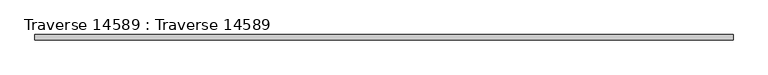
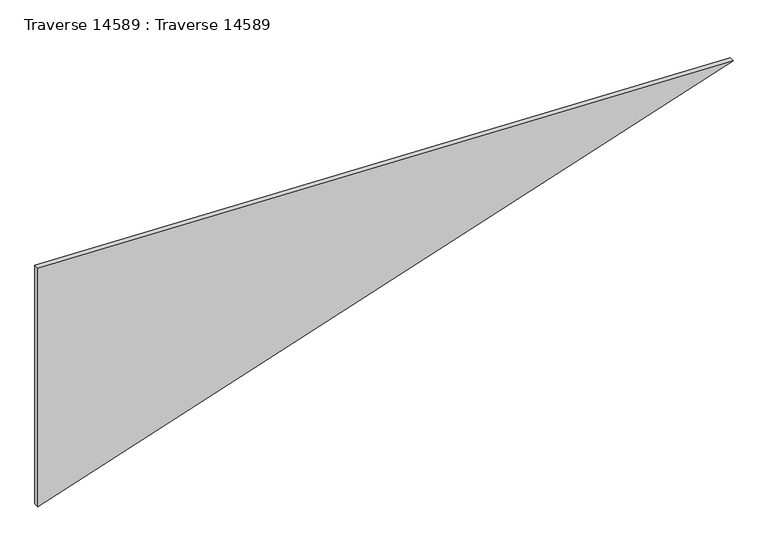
"""IFC4 building model written with IfcOpenShell, lengths in millimetres: beam geometry, Traverse 14589 : Traverse 14589."""

from ifc_helpers import new_model, si_unit, frame, origin, place, context, project, spatial, polyline, outline, extrude, source, transform, mapped, element, save


def traverse_14589_traverse_14589_74e63947(model_context):
    return source(origin(), model_context, "Body", "SweptSolid", [
        extrude(outline(polyline([(6935.9490258, 389.9999701), (7418.2504604, 1860.3647903), (7469.7132291, 389.9999701), (6935.9490258, 389.9999701)])), frame((0.0, -125.55, 0.0), z_axis=(0.0, 1.0, 0.0), x_axis=(0.0, 0.0, 1.0)), (0.0, 0.0, 1.0), 11.1),
    ])


if __name__ == "__main__":
    model = new_model("IFC4")
    model_context = context("Model", 3, world=origin())
    ifc_project = project(units=[si_unit("LENGTHUNIT", "METRE", prefix="MILLI")], contexts=[model_context])
    site = spatial("IfcSite", under=ifc_project)
    building = spatial("IfcBuilding", under=site)
    placement = place(None, origin())
    traverse_14589_traverse_14589_shape = traverse_14589_traverse_14589_74e63947(model_context)
    element("IfcBeam", 1, ObjectType="Traverse 14589 : Traverse 14589", at=placement, inside=building, context=model_context, shape_type="MappedRepresentation", body=[
        mapped(traverse_14589_traverse_14589_shape, transform((0.0, 0.0, 0.0), x_axis=(1.0, 0.0, 0.0), y_axis=(0.0, 1.0, 0.0), z_axis=(0.0, 0.0, 1.0))),
    ])
    save(model, "model.ifc")
